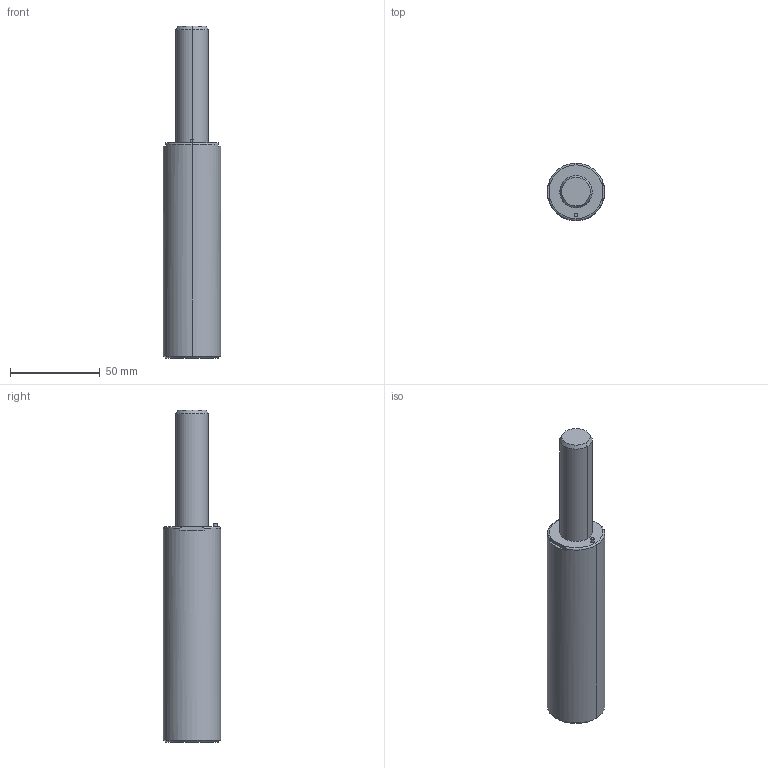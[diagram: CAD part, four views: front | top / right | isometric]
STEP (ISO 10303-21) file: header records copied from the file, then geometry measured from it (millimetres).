
FILE_DESCRIPTION(/* description */ (''),/* implementation_level */ '2;1');
FILE_NAME(/* name */ '3d_gsx32-63_03968_r00.stp',/* time_stamp */ '2011-01-10T14:15:13+09:00',/* author */ ('MISUMI'),/* organization */ (''),/* preprocessor_version */ 'ST-DEVELOPER v11',/* originating_system */ 'UGS - NX 5.0',/* authorisation */ '');
FILE_SCHEMA (('CONFIG_CONTROL_DESIGN'));
Length unit declared in the file: millimetre
Products named in the file (1): 3d_gsx32-63_03968_r00
Bounding box: 32 x 32 x 185 mm (x, y, z)
Volume: 111610 mm3; surface area: 18101.8 mm2
Topology: 1 solids, 1 shells, 45 faces, 98 edges, 60 vertices
Faces by surface type: cylinder 20, plane 13, cone 8, torus 4
Entity records: 1324 total; most frequent: DIRECTION 236, CARTESIAN_POINT 228, ORIENTED_EDGE 188, AXIS2_PLACEMENT_3D 100, EDGE_CURVE 94, VERTEX_POINT 60, EDGE_LOOP 54, CIRCLE 54
